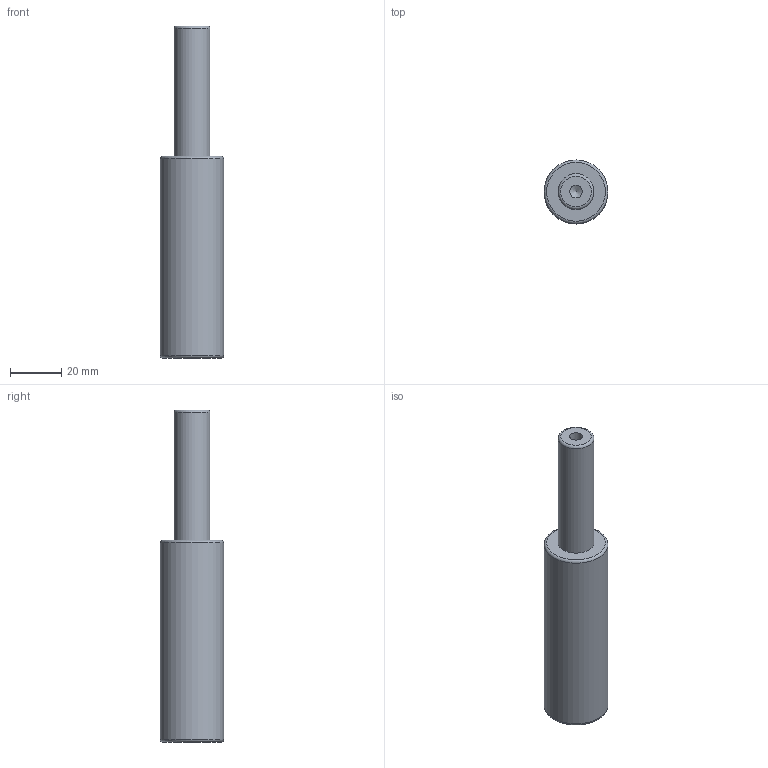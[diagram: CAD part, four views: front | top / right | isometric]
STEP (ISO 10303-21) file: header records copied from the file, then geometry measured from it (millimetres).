
FILE_DESCRIPTION(/* description */ (''),/* implementation_level */ '2;1');
FILE_NAME(/* name */ 'NV5-SMLX.25x50.stp',/* time_stamp */ '2018-08-31T16:08:37+02:00',/* author */ (''),/* organization */ (''),/* preprocessor_version */ 'ST-DEVELOPER v16',/* originating_system */ 'SIEMENS PLM Software NX 10.0',/* authorisation */ '');
FILE_SCHEMA (('AUTOMOTIVE_DESIGN { 1 0 10303 214 3 1 1 1 }'));
Length unit declared in the file: millimetre
Products named in the file (1): NV5-SMLX.25x50
Bounding box: 25 x 25 x 130 mm (x, y, z)
Volume: 46136 mm3; surface area: 9694 mm2
Topology: 1 solids, 1 shells, 12 faces, 24 edges, 15 vertices
Faces by surface type: cylinder 4, torus 3, plane 3, cone 2
Full cylindrical faces by diameter (mm): 5 x2, 14 x1, 25 x1
Entity records: 266 total; most frequent: DIRECTION 48, CARTESIAN_POINT 37, FACE_BOUND 24, AXIS2_PLACEMENT_3D 24, EDGE_LOOP 22, ORIENTED_EDGE 22, VERTEX_POINT 13, ADVANCED_FACE 12
